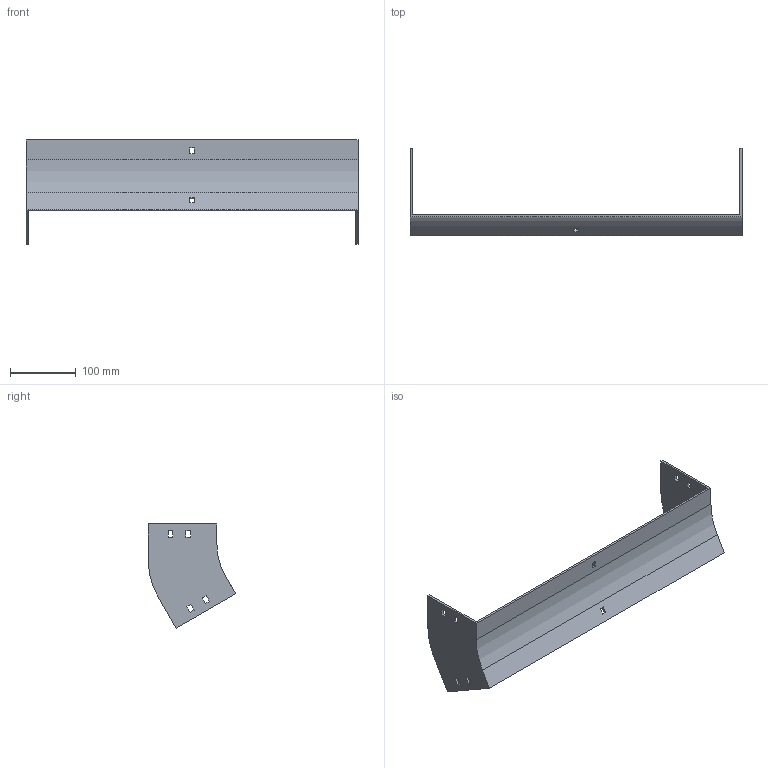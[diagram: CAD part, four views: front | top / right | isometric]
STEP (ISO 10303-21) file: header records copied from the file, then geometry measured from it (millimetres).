
FILE_DESCRIPTION (( 'STEP AP214' ), '1' );
FILE_NAME ('35F1D500.step', '2025-02-21T12:49:04', ( '' ), ( '' ), 'SwSTEP 2.0', 'SolidWorks 2023', '' );
FILE_SCHEMA (( 'AUTOMOTIVE_DESIGN' ));
Length unit declared in the file: millimetre
Products named in the file (1): 35F1D500
Bounding box: 504 x 132.4 x 157.98 mm (x, y, z)
Volume: 297654.8 mm3; surface area: 177362.7 mm2
Topology: 1 solids, 1 shells, 58 faces, 168 edges, 112 vertices
Faces by surface type: plane 54, cylinder 4
Entity records: 1943 total; most frequent: CARTESIAN_POINT 339, ORIENTED_EDGE 336, DIRECTION 294, EDGE_CURVE 168, LINE 160, VECTOR 160, VERTEX_POINT 112, EDGE_LOOP 78
